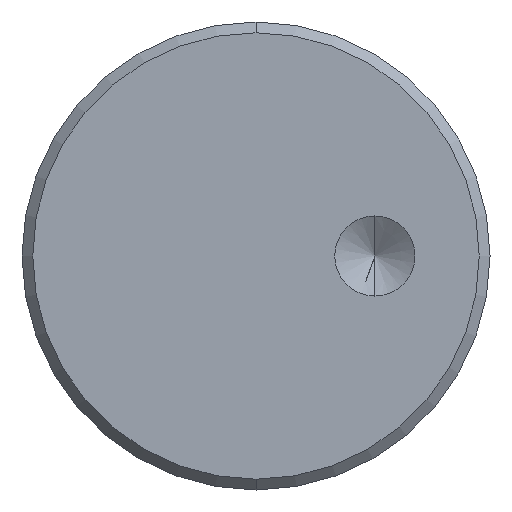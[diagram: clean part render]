
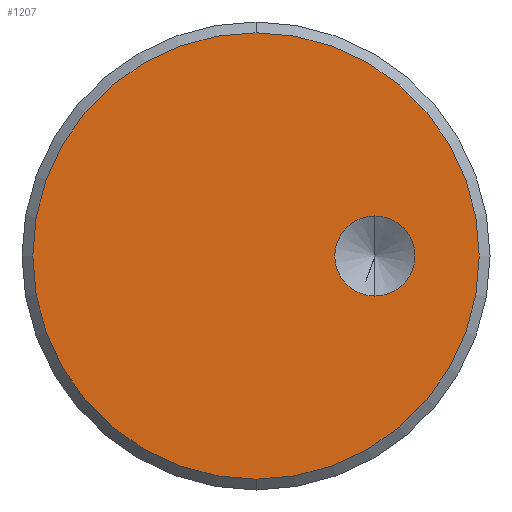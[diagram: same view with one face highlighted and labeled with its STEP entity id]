
A CAD part, front view. The second image highlights one B-rep face of the part: STEP entity #1207.
In plain terms, the highlighted planar face has unit normal (0, -1, 0).
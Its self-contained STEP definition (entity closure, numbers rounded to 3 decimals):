
#6 = DIRECTION ( 'NONE',  ( 0., 0., 1. ) ) ;
#23 = CARTESIAN_POINT ( 'NONE',  ( 0., 0., 0. ) ) ;
#36 = PLANE ( 'NONE',  #1383 ) ;
#56 = ORIENTED_EDGE ( 'NONE', *, *, #94, .F. ) ;
#91 = AXIS2_PLACEMENT_3D ( 'NONE', #969, #928, #162 ) ;
#94 = EDGE_CURVE ( 'NONE', #974, #940, #713, .T. ) ;
#95 = DIRECTION ( 'NONE',  ( 0., 0., 1. ) ) ;
#104 = DIRECTION ( 'NONE',  ( 0., 1., 0. ) ) ;
#106 = VERTEX_POINT ( 'NONE', #213 ) ;
#110 = EDGE_CURVE ( 'NONE', #106, #1088, #691, .T. ) ;
#128 = DIRECTION ( 'NONE',  ( 0., 1., 0. ) ) ;
#162 = DIRECTION ( 'NONE',  ( 0., 0., -1. ) ) ;
#213 = CARTESIAN_POINT ( 'NONE',  ( 12.7, 0., 4.283 ) ) ;
#217 = CARTESIAN_POINT ( 'NONE',  ( 0., 0., 0. ) ) ;
#246 = CIRCLE ( 'NONE', #91, 4.283 ) ;
#295 = ORIENTED_EDGE ( 'NONE', *, *, #514, .F. ) ;
#316 = ORIENTED_EDGE ( 'NONE', *, *, #110, .F. ) ;
#426 = ORIENTED_EDGE ( 'NONE', *, *, #1273, .F. ) ;
#459 = CARTESIAN_POINT ( 'NONE',  ( 12.7, 0., -4.283 ) ) ;
#514 = EDGE_CURVE ( 'NONE', #1088, #106, #246, .T. ) ;
#594 = DIRECTION ( 'NONE',  ( 0., 0., -1. ) ) ;
#628 = DIRECTION ( 'NONE',  ( 0., -1., 0. ) ) ;
#691 = CIRCLE ( 'NONE', #1107, 4.283 ) ;
#713 = CIRCLE ( 'NONE', #858, 23.85 ) ;
#773 = CARTESIAN_POINT ( 'NONE',  ( 0., 0., 23.85 ) ) ;
#789 = CARTESIAN_POINT ( 'NONE',  ( 0., 0., -23.85 ) ) ;
#858 = AXIS2_PLACEMENT_3D ( 'NONE', #1660, #104, #1624 ) ;
#928 = DIRECTION ( 'NONE',  ( 0., -1., 0. ) ) ;
#940 = VERTEX_POINT ( 'NONE', #789 ) ;
#969 = CARTESIAN_POINT ( 'NONE',  ( 12.7, 0., 0. ) ) ;
#974 = VERTEX_POINT ( 'NONE', #773 ) ;
#983 = DIRECTION ( 'NONE',  ( 0., 1., 0. ) ) ;
#1027 = CARTESIAN_POINT ( 'NONE',  ( 12.7, 0., 0. ) ) ;
#1088 = VERTEX_POINT ( 'NONE', #459 ) ;
#1107 = AXIS2_PLACEMENT_3D ( 'NONE', #1027, #628, #594 ) ;
#1182 = CIRCLE ( 'NONE', #1663, 23.85 ) ;
#1207 = ADVANCED_FACE ( 'NONE', ( #1239, #1223 ), #36, .F. ) ;
#1223 = FACE_OUTER_BOUND ( 'NONE', #1422, .T. ) ;
#1239 = FACE_BOUND ( 'NONE', #1591, .T. ) ;
#1273 = EDGE_CURVE ( 'NONE', #940, #974, #1182, .T. ) ;
#1383 = AXIS2_PLACEMENT_3D ( 'NONE', #23, #128, #6 ) ;
#1422 = EDGE_LOOP ( 'NONE', ( #56, #426 ) ) ;
#1591 = EDGE_LOOP ( 'NONE', ( #295, #316 ) ) ;
#1624 = DIRECTION ( 'NONE',  ( 0., 0., 1. ) ) ;
#1660 = CARTESIAN_POINT ( 'NONE',  ( 0., 0., 0. ) ) ;
#1663 = AXIS2_PLACEMENT_3D ( 'NONE', #217, #983, #95 ) ;
